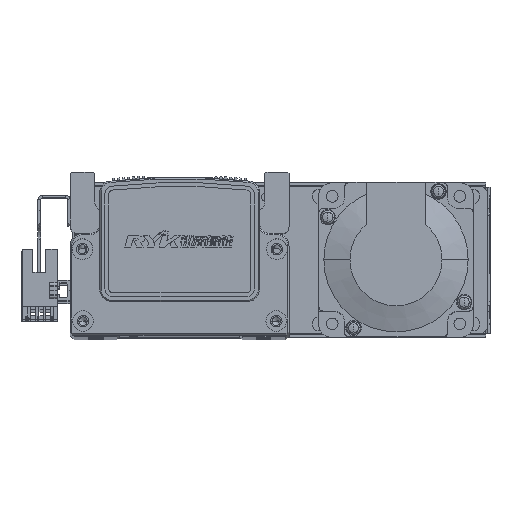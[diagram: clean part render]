
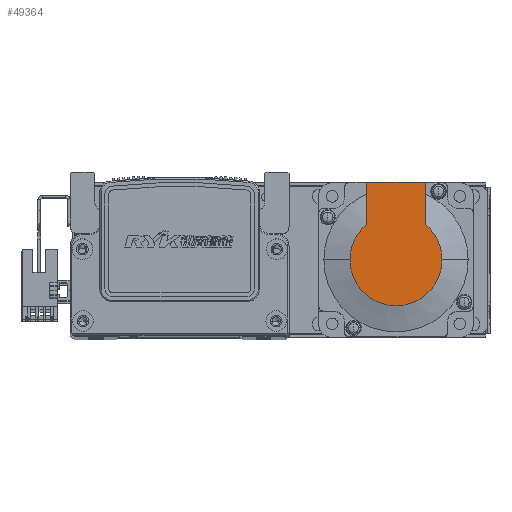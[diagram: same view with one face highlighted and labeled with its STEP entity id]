
A CAD part, top view. The second image highlights one B-rep face of the part: STEP entity #49364.
In plain terms, the highlighted planar face has unit normal (0, 0, 1) as drawn and (-1, 0, 0) by its records, which use the part's own axes.
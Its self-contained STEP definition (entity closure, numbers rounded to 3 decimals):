
#4014 = VERTEX_POINT ( 'NONE', #40555 ) ;
#4015 = VERTEX_POINT ( 'NONE', #40572 ) ;
#4148 = VERTEX_POINT ( 'NONE', #40625 ) ;
#4159 = VERTEX_POINT ( 'NONE', #40592 ) ;
#4225 = VERTEX_POINT ( 'NONE', #40706 ) ;
#6377 = AXIS2_PLACEMENT_3D ( 'NONE', #71455, #71450, #71458 ) ;
#10894 = LINE ( 'NONE', #31313, #10928 ) ;
#10928 = VECTOR ( 'NONE', #31283, 1000. ) ;
#14719 = CARTESIAN_POINT ( 'NONE',  ( -99., 0., 0. ) ) ;
#14739 = DIRECTION ( 'NONE',  ( -1., 0., 0. ) ) ;
#14742 = DIRECTION ( 'NONE',  ( 0., 0., -1. ) ) ;
#14758 = DIRECTION ( 'NONE',  ( -1., 0., 0. ) ) ;
#14770 = DIRECTION ( 'NONE',  ( 0., 0., -1. ) ) ;
#14774 = CARTESIAN_POINT ( 'NONE',  ( -99., 0., 0. ) ) ;
#16244 = LINE ( 'NONE', #31155, #16256 ) ;
#16252 = LINE ( 'NONE', #31229, #16280 ) ;
#16256 = VECTOR ( 'NONE', #31181, 1000. ) ;
#16280 = VECTOR ( 'NONE', #31193, 1000. ) ;
#17245 = CIRCLE ( 'NONE', #24560, 17.881 ) ;
#17248 = CIRCLE ( 'NONE', #24521, 17.881 ) ;
#18007 = CIRCLE ( 'NONE', #24714, 17.881 ) ;
#20134 = CARTESIAN_POINT ( 'NONE',  ( -99., 13.735, -11.45 ) ) ;
#24521 = AXIS2_PLACEMENT_3D ( 'NONE', #14719, #14739, #14742 ) ;
#24560 = AXIS2_PLACEMENT_3D ( 'NONE', #14774, #14758, #14770 ) ;
#24714 = AXIS2_PLACEMENT_3D ( 'NONE', #31076, #31077, #31078 ) ;
#31076 = CARTESIAN_POINT ( 'NONE',  ( -99., 0., 0. ) ) ;
#31077 = DIRECTION ( 'NONE',  ( -1., 0., 0. ) ) ;
#31078 = DIRECTION ( 'NONE',  ( 0., 0., -1. ) ) ;
#31155 = CARTESIAN_POINT ( 'NONE',  ( -99., -8.941, -11.45 ) ) ;
#31181 = DIRECTION ( 'NONE',  ( 0., -1., 0. ) ) ;
#31193 = DIRECTION ( 'NONE',  ( 0., -1., 0. ) ) ;
#31229 = CARTESIAN_POINT ( 'NONE',  ( -99., 0., 11.45 ) ) ;
#31283 = DIRECTION ( 'NONE',  ( 0., 0., 1. ) ) ;
#31313 = CARTESIAN_POINT ( 'NONE',  ( -99., 30., 25. ) ) ;
#39587 = EDGE_CURVE ( 'NONE', #4148, #4159, #17248, .T. ) ;
#39598 = EDGE_CURVE ( 'NONE', #4159, #4225, #17245, .T. ) ;
#39833 = EDGE_CURVE ( 'NONE', #56984, #4148, #18007, .T. ) ;
#39865 = EDGE_CURVE ( 'NONE', #4014, #56984, #16244, .T. ) ;
#39880 = EDGE_CURVE ( 'NONE', #4015, #4225, #16252, .T. ) ;
#39917 = EDGE_CURVE ( 'NONE', #4014, #4015, #10894, .T. ) ;
#40555 = CARTESIAN_POINT ( 'NONE',  ( -99., 30., -11.45 ) ) ;
#40572 = CARTESIAN_POINT ( 'NONE',  ( -99., 30., 11.45 ) ) ;
#40592 = CARTESIAN_POINT ( 'NONE',  ( -99., 0., 17.881 ) ) ;
#40625 = CARTESIAN_POINT ( 'NONE',  ( -99., 0., -17.881 ) ) ;
#40706 = CARTESIAN_POINT ( 'NONE',  ( -99., 13.735, 11.45 ) ) ;
#49364 = ADVANCED_FACE ( 'NONE', ( #69542 ), #71430, .T. ) ;
#55214 = ORIENTED_EDGE ( 'NONE', *, *, #39917, .F. ) ;
#55234 = ORIENTED_EDGE ( 'NONE', *, *, #39833, .T. ) ;
#55259 = ORIENTED_EDGE ( 'NONE', *, *, #39598, .T. ) ;
#55274 = ORIENTED_EDGE ( 'NONE', *, *, #39587, .T. ) ;
#55282 = ORIENTED_EDGE ( 'NONE', *, *, #39865, .T. ) ;
#55322 = ORIENTED_EDGE ( 'NONE', *, *, #39880, .F. ) ;
#56984 = VERTEX_POINT ( 'NONE', #20134 ) ;
#69542 = FACE_OUTER_BOUND ( 'NONE', #70115, .T. ) ;
#70115 = EDGE_LOOP ( 'NONE', ( #55282, #55234, #55274, #55259, #55322, #55214 ) ) ;
#71430 = PLANE ( 'NONE',  #6377 ) ;
#71450 = DIRECTION ( 'NONE',  ( -1., 0., 0. ) ) ;
#71455 = CARTESIAN_POINT ( 'NONE',  ( -99., -8.941, 0. ) ) ;
#71458 = DIRECTION ( 'NONE',  ( 0., 0., 1. ) ) ;
